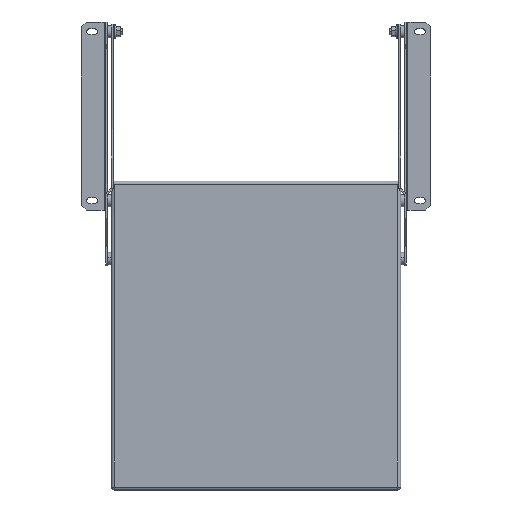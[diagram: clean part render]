
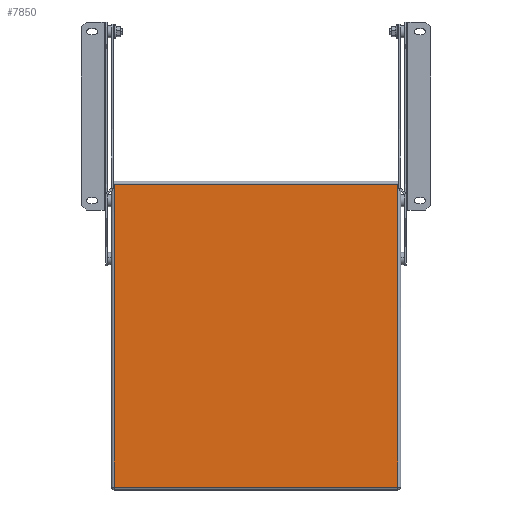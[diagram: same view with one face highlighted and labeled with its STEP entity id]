
A CAD part, top view. The second image highlights one B-rep face of the part: STEP entity #7850.
In plain terms, the highlighted planar face has unit normal (0, 0, 1) as drawn and (0, -1, 0) by its records, which use the part's own axes.
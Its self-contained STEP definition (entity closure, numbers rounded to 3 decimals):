
#150 = AXIS2_PLACEMENT_3D ( 'NONE', #243, #12278, #1696 ) ;
#243 = CARTESIAN_POINT ( 'NONE',  ( 0., 0., 0. ) ) ;
#623 = CARTESIAN_POINT ( 'NONE',  ( -147., 0., 157. ) ) ;
#1477 = CARTESIAN_POINT ( 'NONE',  ( 0., 0., -157. ) ) ;
#1498 = VERTEX_POINT ( 'NONE', #10319 ) ;
#1696 = DIRECTION ( 'NONE',  ( 0., 0., 1. ) ) ;
#2140 = CARTESIAN_POINT ( 'NONE',  ( 147., 0., 0. ) ) ;
#2463 = EDGE_CURVE ( 'NONE', #1498, #8621, #8340, .T. ) ;
#2883 = CARTESIAN_POINT ( 'NONE',  ( 147., 0., -157. ) ) ;
#3010 = ORIENTED_EDGE ( 'NONE', *, *, #9978, .T. ) ;
#3285 = LINE ( 'NONE', #2140, #9560 ) ;
#4650 = ORIENTED_EDGE ( 'NONE', *, *, #2463, .T. ) ;
#5264 = ORIENTED_EDGE ( 'NONE', *, *, #5943, .T. ) ;
#5943 = EDGE_CURVE ( 'NONE', #11670, #12131, #7163, .T. ) ;
#6364 = CARTESIAN_POINT ( 'NONE',  ( -147., 0., -157. ) ) ;
#6876 = DIRECTION ( 'NONE',  ( -1., 0., 0. ) ) ;
#7163 = LINE ( 'NONE', #1477, #10926 ) ;
#7850 = ADVANCED_FACE ( 'NONE', ( #9759 ), #12204, .F. ) ;
#8340 = LINE ( 'NONE', #13008, #10490 ) ;
#8621 = VERTEX_POINT ( 'NONE', #623 ) ;
#9458 = DIRECTION ( 'NONE',  ( 1., 0., 0. ) ) ;
#9560 = VECTOR ( 'NONE', #11421, 1000. ) ;
#9759 = FACE_OUTER_BOUND ( 'NONE', #14836, .T. ) ;
#9978 = EDGE_CURVE ( 'NONE', #8621, #11670, #9994, .T. ) ;
#9994 = LINE ( 'NONE', #14673, #13955 ) ;
#10319 = CARTESIAN_POINT ( 'NONE',  ( 147., 0., 157. ) ) ;
#10490 = VECTOR ( 'NONE', #6876, 1000. ) ;
#10926 = VECTOR ( 'NONE', #9458, 1000. ) ;
#11421 = DIRECTION ( 'NONE',  ( 0., 0., 1. ) ) ;
#11455 = EDGE_CURVE ( 'NONE', #12131, #1498, #3285, .T. ) ;
#11670 = VERTEX_POINT ( 'NONE', #6364 ) ;
#12094 = ORIENTED_EDGE ( 'NONE', *, *, #11455, .T. ) ;
#12131 = VERTEX_POINT ( 'NONE', #2883 ) ;
#12204 = PLANE ( 'NONE',  #150 ) ;
#12278 = DIRECTION ( 'NONE',  ( 0., 1., 0. ) ) ;
#13008 = CARTESIAN_POINT ( 'NONE',  ( 0., 0., 157. ) ) ;
#13955 = VECTOR ( 'NONE', #14586, 1000. ) ;
#14586 = DIRECTION ( 'NONE',  ( 0., 0., -1. ) ) ;
#14673 = CARTESIAN_POINT ( 'NONE',  ( -147., 0., 0. ) ) ;
#14836 = EDGE_LOOP ( 'NONE', ( #3010, #5264, #12094, #4650 ) ) ;
